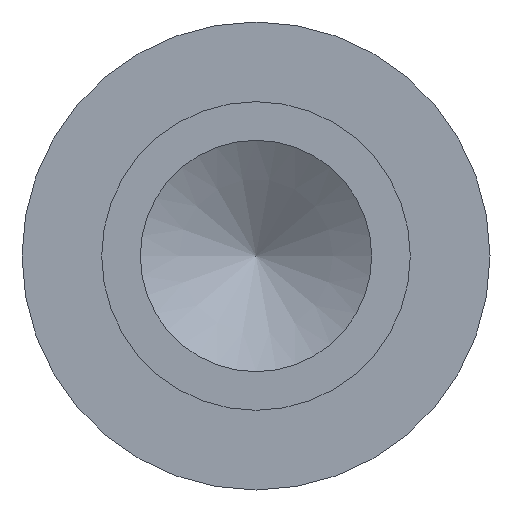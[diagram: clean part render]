
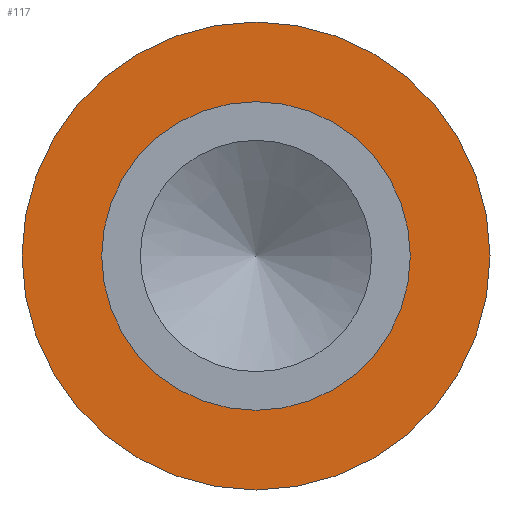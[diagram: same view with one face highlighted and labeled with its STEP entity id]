
A CAD part, left-side view. The second image highlights one B-rep face of the part: STEP entity #117.
In plain terms, the highlighted planar face has unit normal (-1, 0, 0).
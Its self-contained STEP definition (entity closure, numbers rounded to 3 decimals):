
#13=PLANE($,#135);
#20=FACE_BOUND($,#49,.T.);
#37=FACE_OUTER_BOUND($,#48,.T.);
#48=EDGE_LOOP($,(#98));
#49=EDGE_LOOP($,(#99));
#65=CIRCLE($,#133,0.787);
#67=CIRCLE($,#136,1.194);
#75=VERTEX_POINT($,#201);
#77=VERTEX_POINT($,#206);
#85=EDGE_CURVE($,#75,#75,#65,.T.);
#87=EDGE_CURVE($,#77,#77,#67,.T.);
#98=ORIENTED_EDGE($,*,*,#87,.F.);
#99=ORIENTED_EDGE($,*,*,#85,.T.);
#117=ADVANCED_FACE($,(#37,#20),#13,.T.);
#133=AXIS2_PLACEMENT_3D($,#202,#161,#162);
#135=AXIS2_PLACEMENT_3D($,#205,#165,#166);
#136=AXIS2_PLACEMENT_3D($,#207,#167,#168);
#161=DIRECTION('center_axis',(1.,0.,0.));
#162=DIRECTION('ref_axis',(0.,1.,0.));
#165=DIRECTION('center_axis',(-1.,0.,0.));
#166=DIRECTION('ref_axis',(0.,0.,1.));
#167=DIRECTION('center_axis',(1.,0.,0.));
#168=DIRECTION('ref_axis',(0.,1.,0.));
#201=CARTESIAN_POINT('',(0.635,0.787,0.));
#202=CARTESIAN_POINT('Origin',(0.635,0.,0.));
#205=CARTESIAN_POINT('Origin',(0.635,0.991,0.));
#206=CARTESIAN_POINT('',(0.635,1.194,0.));
#207=CARTESIAN_POINT('Origin',(0.635,0.,0.));
